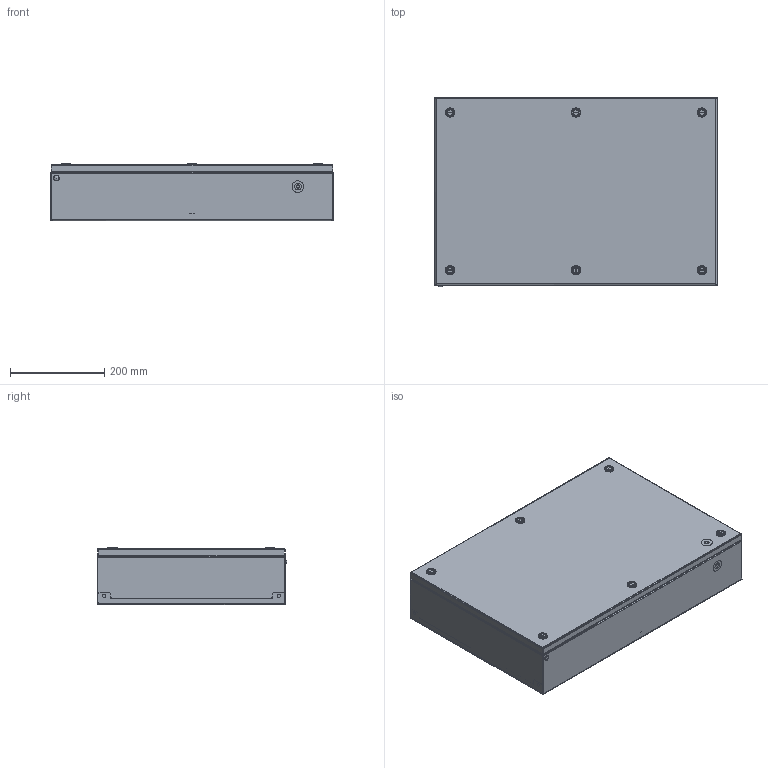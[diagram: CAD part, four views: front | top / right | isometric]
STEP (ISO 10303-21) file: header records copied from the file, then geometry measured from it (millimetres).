
FILE_DESCRIPTION (( 'STEP AP214' ), '1' );
FILE_NAME ('BCS 40.60.12 Êîðîáêà.STEP', '2023-03-14T05:13:25', ( '' ), ( '' ), 'SwSTEP 2.0', 'SolidWorks 2019', '' );
FILE_SCHEMA (( 'AUTOMOTIVE_DESIGN' ));
Length unit declared in the file: millimetre
Products named in the file (1): BCS 40.60.12 Êîðîáêà
Bounding box: 600 x 402.5 x 123 mm (x, y, z)
Volume: 1425424.3 mm3; surface area: 2100566.4 mm2
Topology: 51 solids, 51 shells, 2916 faces, 7371 edges, 4662 vertices
Faces by surface type: plane 1611, cylinder 896, cone 178, bspline 138, torus 68, sphere 25
Entity records: 136710 total; most frequent: CARTESIAN_POINT 34791, ORIENTED_EDGE 14688, DIRECTION 13766, EDGE_CURVE 7344, VERTEX_POINT 4660, AXIS2_PLACEMENT_3D 4639, VECTOR 4488, LINE 4488
